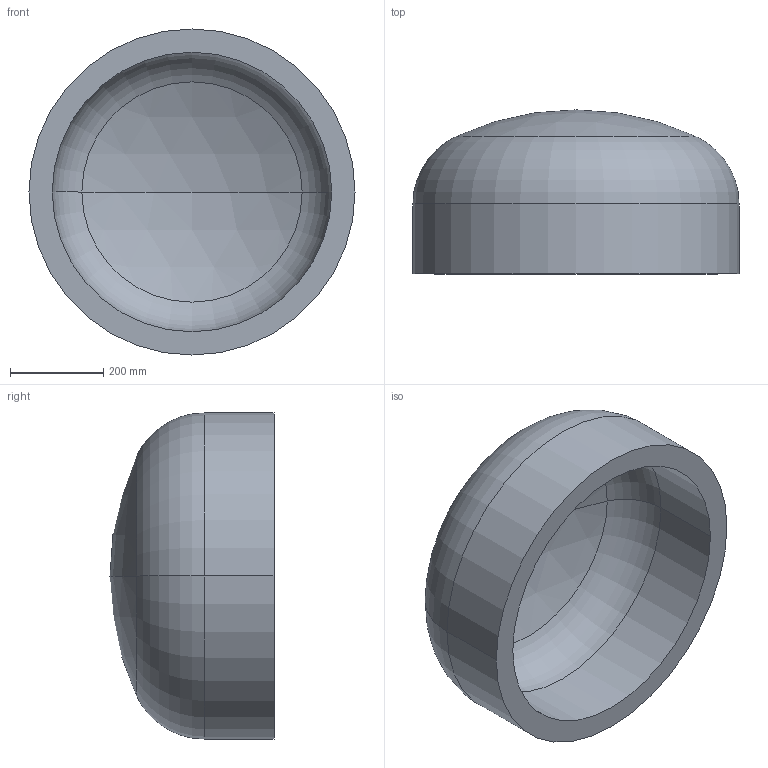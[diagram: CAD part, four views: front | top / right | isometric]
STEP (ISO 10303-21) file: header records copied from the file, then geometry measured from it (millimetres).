
FILE_DESCRIPTION (( 'STEP AP203' ), '1' );
FILE_NAME ('DIN 28013 Korbbogenform_-_Boden DIN 28013 - 700 x 150 - I - s=50.step', '2016-07-01T08:08:50', ( '' ), ( '' ), 'SwSTEP 2.0', 'SolidWorks 2013', '' );
FILE_SCHEMA (( 'CONFIG_CONTROL_DESIGN' ));
Length unit declared in the file: millimetre
Products named in the file (1): DIN 28013 Korbbogenform_-_Boden DIN 28013 - 700 x 150 - I - s=50
Bounding box: 700 x 352.08 x 700 mm (x, y, z)
Volume: 39769420 mm3; surface area: 1698114.3 mm2
Topology: 1 solids, 1 shells, 13 faces, 24 edges, 14 vertices
Faces by surface type: torus 4, cylinder 4, sphere 4, plane 1
Entity records: 407 total; most frequent: DIRECTION 72, CARTESIAN_POINT 52, ORIENTED_EDGE 48, AXIS2_PLACEMENT_3D 34, EDGE_CURVE 24, CIRCLE 20, EDGE_LOOP 14, VERTEX_POINT 14
